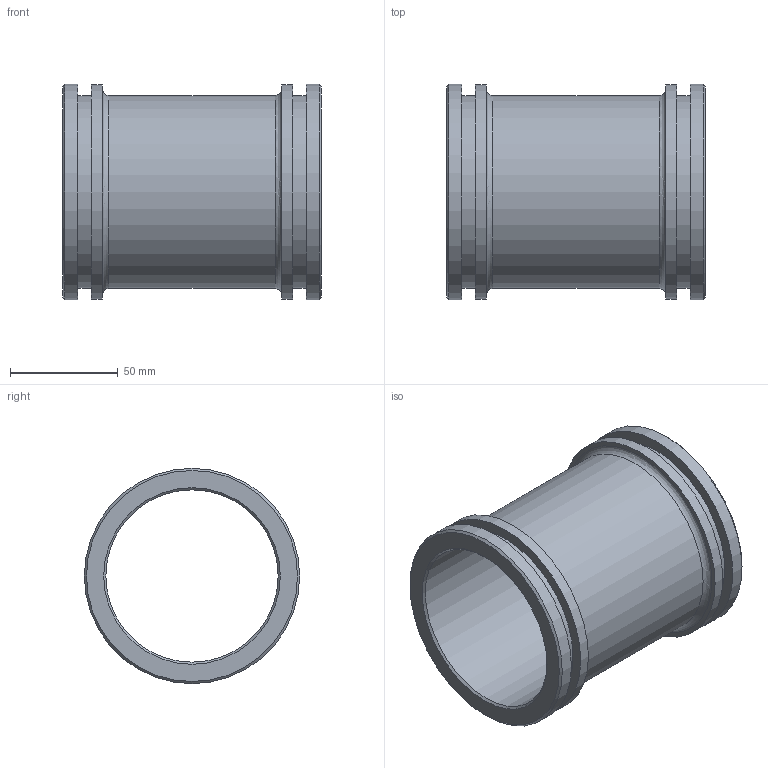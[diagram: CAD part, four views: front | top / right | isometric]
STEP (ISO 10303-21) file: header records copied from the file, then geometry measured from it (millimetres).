
FILE_DESCRIPTION((''),'2;1');
FILE_NAME('N:\CAD\ARCHIV\5350 (-999)\Standardhülsen\5350.080.120\Kundenteil 3D\5350.080.120 für Kunden.stp','2011-05-16T17:20:13',('HWalkhoff'),(''),'Autodesk Inventor 2009','Autodesk Inventor 2009','');
FILE_SCHEMA(('AUTOMOTIVE_DESIGN { 1 0 10303 214 1 1 1 1 }'));
Length unit declared in the file: millimetre
Products named in the file (1): Hülse für Kunden
Bounding box: 120 x 100 x 100 mm (x, y, z)
Volume: 188864 mm3; surface area: 78126.3 mm2
Topology: 1 solids, 1 shells, 22 faces, 36 edges, 22 vertices
Faces by surface type: cylinder 8, plane 8, cone 4, bspline 2
Full cylindrical faces by diameter (mm): 80 x1, 89.34 x2, 89.5 x1, 99.5 x2, 100 x2
Entity records: 554 total; most frequent: CARTESIAN_POINT 155, DIRECTION 86, ORIENTED_EDGE 44, EDGE_LOOP 44, AXIS2_PLACEMENT_3D 43, VERTEX_POINT 22, CIRCLE 22, EDGE_CURVE 22
